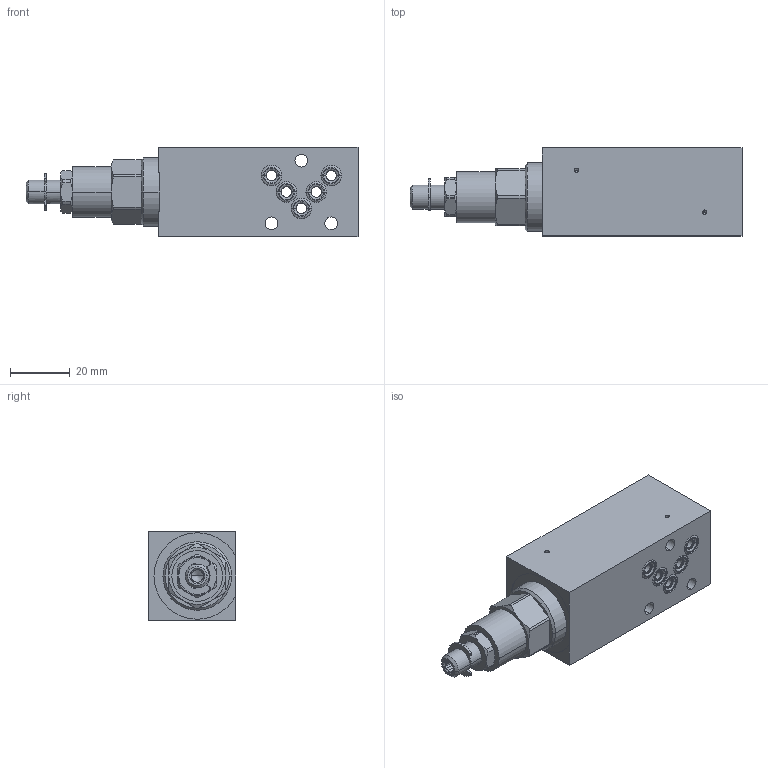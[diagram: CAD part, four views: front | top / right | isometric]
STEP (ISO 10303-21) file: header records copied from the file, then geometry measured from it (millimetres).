
FILE_DESCRIPTION (( 'STEP AP214' ), '1' );
FILE_NAME ('G.SSA03-T.STEP', '2017-03-23T07:31:23', ( '' ), ( '' ), 'SwSTEP 2.0', 'SolidWorks 2016', '' );
FILE_SCHEMA (( 'AUTOMOTIVE_DESIGN' ));
Length unit declared in the file: millimetre
Products named in the file (1): G.SSA03-T
Bounding box: 111.3 x 29.5 x 30 mm (x, y, z)
Volume: 65886.1 mm3; surface area: 16025.2 mm2
Topology: 10 solids, 10 shells, 294 faces, 704 edges, 435 vertices
Faces by surface type: cylinder 110, plane 97, cone 47, bspline 40
Entity records: 12807 total; most frequent: CARTESIAN_POINT 2824, DIRECTION 1387, ORIENTED_EDGE 1384, EDGE_CURVE 692, AXIS2_PLACEMENT_3D 562, VERTEX_POINT 435, EDGE_LOOP 341, CIRCLE 307
